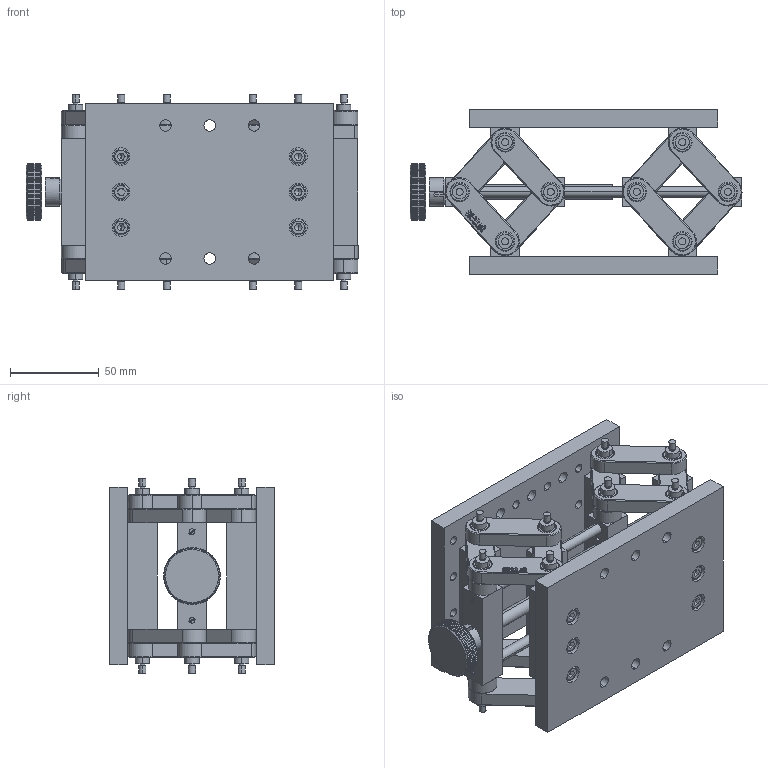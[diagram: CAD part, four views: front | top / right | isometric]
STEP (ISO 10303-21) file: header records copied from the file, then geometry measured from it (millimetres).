
FILE_DESCRIPTION (( 'STEP AP214' ), '1' );
FILE_NAME ('PT-SD1711MP.STEP', '2022-09-11T08:45:47', ( '' ), ( '' ), 'SwSTEP 2.0', 'SolidWorks 2017', '' );
FILE_SCHEMA (( 'AUTOMOTIVE_DESIGN' ));
Length unit declared in the file: millimetre
Products named in the file (3): PT-SD1711MP盓殤; PT-SD1711MP菁釱; PT-SD1711MP
Assembly tree (2 placements, depth 2):
  PT-SD1711MP
    PT-SD1711MP菁釱
    PT-SD1711MP盓殤
Bounding box: 187.41 x 92.97 x 110 mm (x, y, z)
Volume: 39484.8 mm3; surface area: 167083 mm2
Topology: 8 solids, 87 shells, 1312 faces, 3594 edges, 2418 vertices
Faces by surface type: plane 540, cylinder 497, bspline 180, cone 95
Entity records: 60802 total; most frequent: CARTESIAN_POINT 28508, ORIENTED_EDGE 6653, DIRECTION 6033, EDGE_CURVE 3574, VERTEX_POINT 2418, AXIS2_PLACEMENT_3D 2101, LINE 1831, VECTOR 1831
